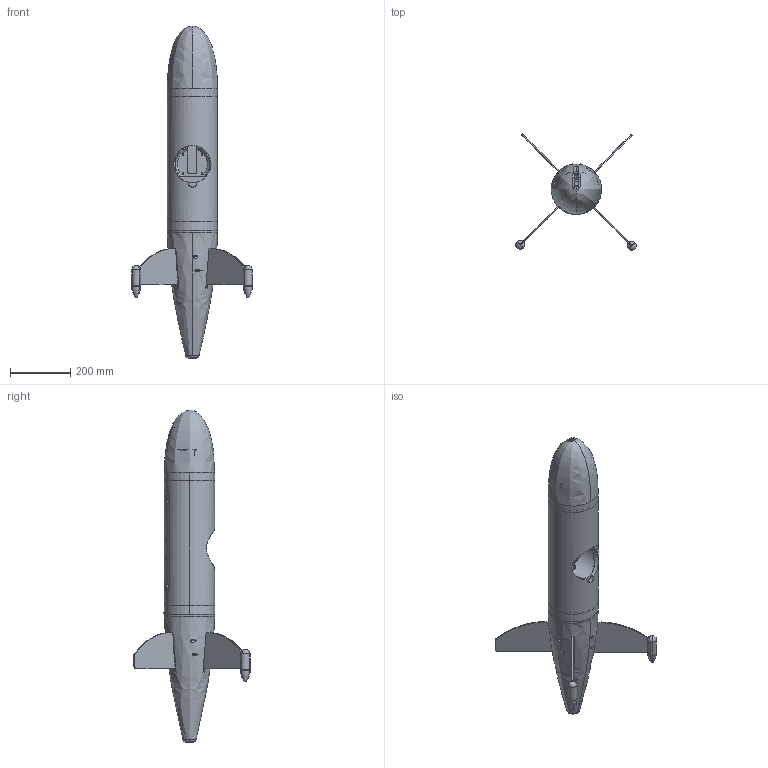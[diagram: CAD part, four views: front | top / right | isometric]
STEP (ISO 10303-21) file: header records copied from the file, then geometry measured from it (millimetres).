
FILE_DESCRIPTION (( 'STEP AP214' ), '1' );
FILE_NAME ('03877_for integrators.STEP', '2013-04-03T23:30:19', ( '' ), ( '' ), 'SwSTEP 2.0', 'SolidWorks 2013', '' );
FILE_SCHEMA (( 'AUTOMOTIVE_DESIGN' ));
Length unit declared in the file: millimetre
Products named in the file (48): 02526-XX-XXX_M3, 8mm; 03521; 03871; 02581; 02516-XX-XXX_M4x0.7, 16mm; 02522-XXX_AS568-014, 12.4mm ID, 1.52mm THK; 02516-XX-XXX_M4x0.7, 10mm; 01243; 02516-XX-XXX_M3x0.5, 4mm; 03524_8-Pin; 02522-XXX_AS568-114, 15.5mm ID, 2.61mm THK; 03878; 02524-XX-XXX_M6x1, 16mm; 02667; 03146; 02516-XX-XXX_M5x0.8, 10mm; 03142; 03159; 00855; 03150; 03134; 02580; 03138; 02587-XX_M4x0.7; 03170; 01250; 02875; 03520; 02591-X_3-Pin; 02517-XX-XXX_M5x0.8, 20mm; 03137; 03877_for integrators; 02517-XX-XXX_M5x0.8, 16mm; 02517-XX-XXX_M5x0.8, 30mm; 02818-01; 01858; 02525-XX_6mm; 03231; 04050_95211A150; 01478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
Assembly tree (120 placements, depth 2):
  03877_for integrators
    03150
    03146
    03137
    03134
    00855
    01478
    03231
    01243
    02818-01
    02818  x2
    01858  x2
    03159
    02875  x4
    03138  x4
    03168  x2
    03871  x2
    02814
    03170
    03520
    03521
    03172
    03878  x6
    02522-XXX_AS568-253, 136.mm ID, 3.53mm THK  x2
    02526-XX-XXX_M3, 10mm  x3
    02517-XX-XXX_M5x0.8, 20mm  x6
    00068  x7
    02517-XX-XXX_M5x0.8, 30mm
    02517-XX-XXX_M5x0.8, 16mm  x12
    02526-XX-XXX_M3, 8mm  x2
    02524-XX-XXX_M6x1, 16mm  x2
    02522-XXX_AS568-114, 15.5mm ID, 2.61mm THK
    02525-XX_6mm  x4
    02516-XX-XXX_M3x0.5, 4mm  x8
    02516-XX-XXX_M4x0.7, 16mm  x4
    02587-XX_M4x0.7  x4
    02516-XX-XXX_M4x0.7, 10mm  x4
    02522-XXX_AS568-014, 12.4mm ID, 1.52mm THK  x3
    02581  x3
    02580  x3
    01250
    02591-X_3-Pin
    03524_8-Pin
    02667  x2
    03142
    02516-XX-XXX_M5x0.8, 10mm  x4
    04050_95211A150  x4
  03699
Bounding box: 398.62 x 384.88 x 1098.82 mm (x, y, z)
Volume: 12248262.9 mm3; surface area: 1982438.7 mm2
Topology: 125 solids, 125 shells, 4283 faces, 10431 edges, 6508 vertices
Faces by surface type: plane 1674, cylinder 1449, cone 574, bspline 410, torus 146, sphere 30
Entity records: 81279 total; most frequent: CARTESIAN_POINT 30518, DIRECTION 9736, ORIENTED_EDGE 9408, EDGE_CURVE 4704, AXIS2_PLACEMENT_3D 3832, VERTEX_POINT 2976, EDGE_LOOP 2220, VECTOR 2072
